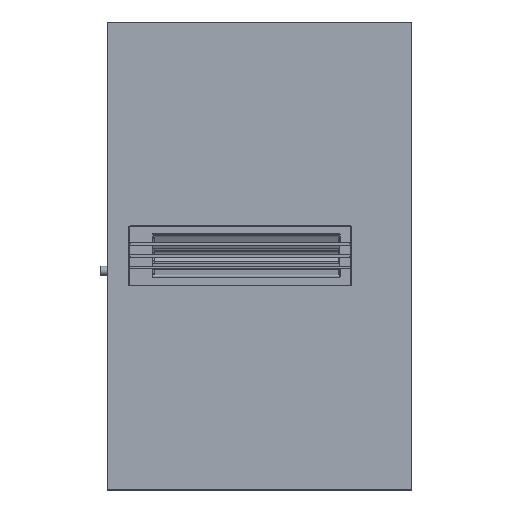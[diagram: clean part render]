
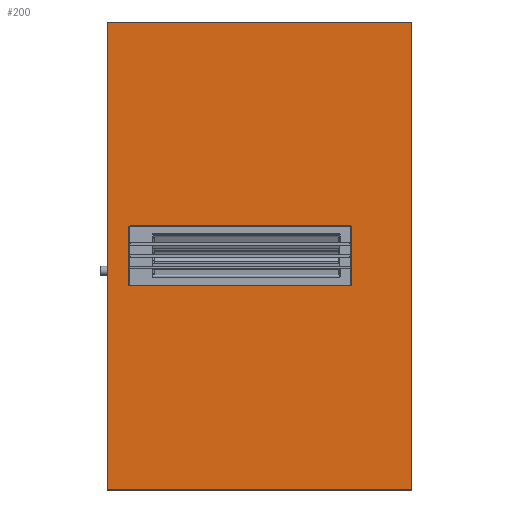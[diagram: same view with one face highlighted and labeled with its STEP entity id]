
A CAD part, top view. The second image highlights one B-rep face of the part: STEP entity #200.
In plain terms, the highlighted planar face has unit normal (0, 0, 1).
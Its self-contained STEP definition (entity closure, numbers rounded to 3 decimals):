
#158=AXIS2_PLACEMENT_3D('Plane Axis2P3D',#155,#156,#157) ;
#49=CARTESIAN_POINT('Vertex',(-523.,400.,6.)) ;
#52=CARTESIAN_POINT('Line Origine',(-263.,400.,6.)) ;
#56=CARTESIAN_POINT('Vertex',(-3.,400.,6.)) ;
#76=CARTESIAN_POINT('Line Origine',(-523.,0.,6.)) ;
#80=CARTESIAN_POINT('Vertex',(-523.,-400.,6.)) ;
#107=CARTESIAN_POINT('Line Origine',(-263.,-400.,6.)) ;
#111=CARTESIAN_POINT('Vertex',(-3.,-400.,6.)) ;
#143=CARTESIAN_POINT('Line Origine',(-3.,0.,6.)) ;
#155=CARTESIAN_POINT('Axis2P3D Location',(-263.,-400.,6.)) ;
#166=CARTESIAN_POINT('Line Origine',(-285.,43.75,6.)) ;
#170=CARTESIAN_POINT('Vertex',(-458.25,43.75,6.)) ;
#172=CARTESIAN_POINT('Vertex',(-111.75,43.75,6.)) ;
#175=CARTESIAN_POINT('Line Origine',(-111.75,0.,6.)) ;
#179=CARTESIAN_POINT('Vertex',(-111.75,-43.75,6.)) ;
#182=CARTESIAN_POINT('Line Origine',(-285.,-43.75,6.)) ;
#186=CARTESIAN_POINT('Vertex',(-458.25,-43.75,6.)) ;
#189=CARTESIAN_POINT('Line Origine',(-458.25,0.,6.)) ;
#53=DIRECTION('Vector Direction',(1.,0.,0.)) ;
#77=DIRECTION('Vector Direction',(0.,1.,0.)) ;
#108=DIRECTION('Vector Direction',(1.,0.,0.)) ;
#144=DIRECTION('Vector Direction',(0.,1.,0.)) ;
#156=DIRECTION('Axis2P3D Direction',(0.,0.,-1.)) ;
#157=DIRECTION('Axis2P3D XDirection',(0.,1.,0.)) ;
#167=DIRECTION('Vector Direction',(-1.,0.,0.)) ;
#176=DIRECTION('Vector Direction',(0.,-1.,0.)) ;
#183=DIRECTION('Vector Direction',(1.,0.,0.)) ;
#190=DIRECTION('Vector Direction',(0.,1.,0.)) ;
#54=VECTOR('Line Direction',#53,1.) ;
#78=VECTOR('Line Direction',#77,1.) ;
#109=VECTOR('Line Direction',#108,1.) ;
#145=VECTOR('Line Direction',#144,1.) ;
#168=VECTOR('Line Direction',#167,1.) ;
#177=VECTOR('Line Direction',#176,1.) ;
#184=VECTOR('Line Direction',#183,1.) ;
#191=VECTOR('Line Direction',#190,1.) ;
#161=ORIENTED_EDGE('',*,*,#58,.F.) ;
#162=ORIENTED_EDGE('',*,*,#82,.T.) ;
#163=ORIENTED_EDGE('',*,*,#113,.T.) ;
#164=ORIENTED_EDGE('',*,*,#147,.F.) ;
#195=ORIENTED_EDGE('',*,*,#174,.T.) ;
#196=ORIENTED_EDGE('',*,*,#181,.T.) ;
#197=ORIENTED_EDGE('',*,*,#188,.T.) ;
#198=ORIENTED_EDGE('',*,*,#193,.T.) ;
#199=FACE_BOUND('',#194,.T.) ;
#200=ADVANCED_FACE('Glaskeramik',(#165,#199),#159,.F.) ;
#58=EDGE_CURVE('',#50,#57,#55,.T.) ;
#82=EDGE_CURVE('',#50,#81,#79,.F.) ;
#113=EDGE_CURVE('',#81,#112,#110,.T.) ;
#147=EDGE_CURVE('',#57,#112,#146,.F.) ;
#174=EDGE_CURVE('',#171,#173,#169,.F.) ;
#181=EDGE_CURVE('',#173,#180,#178,.T.) ;
#188=EDGE_CURVE('',#180,#187,#185,.F.) ;
#193=EDGE_CURVE('',#187,#171,#192,.T.) ;
#160=EDGE_LOOP('',(#161,#162,#163,#164)) ;
#194=EDGE_LOOP('',(#195,#196,#197,#198)) ;
#165=FACE_OUTER_BOUND('',#160,.T.) ;
#55=LINE('Line',#52,#54) ;
#79=LINE('Line',#76,#78) ;
#110=LINE('Line',#107,#109) ;
#146=LINE('Line',#143,#145) ;
#169=LINE('Line',#166,#168) ;
#178=LINE('Line',#175,#177) ;
#185=LINE('Line',#182,#184) ;
#192=LINE('Line',#189,#191) ;
#159=PLANE('',#158) ;
#50=VERTEX_POINT('',#49) ;
#57=VERTEX_POINT('',#56) ;
#81=VERTEX_POINT('',#80) ;
#112=VERTEX_POINT('',#111) ;
#171=VERTEX_POINT('',#170) ;
#173=VERTEX_POINT('',#172) ;
#180=VERTEX_POINT('',#179) ;
#187=VERTEX_POINT('',#186) ;
